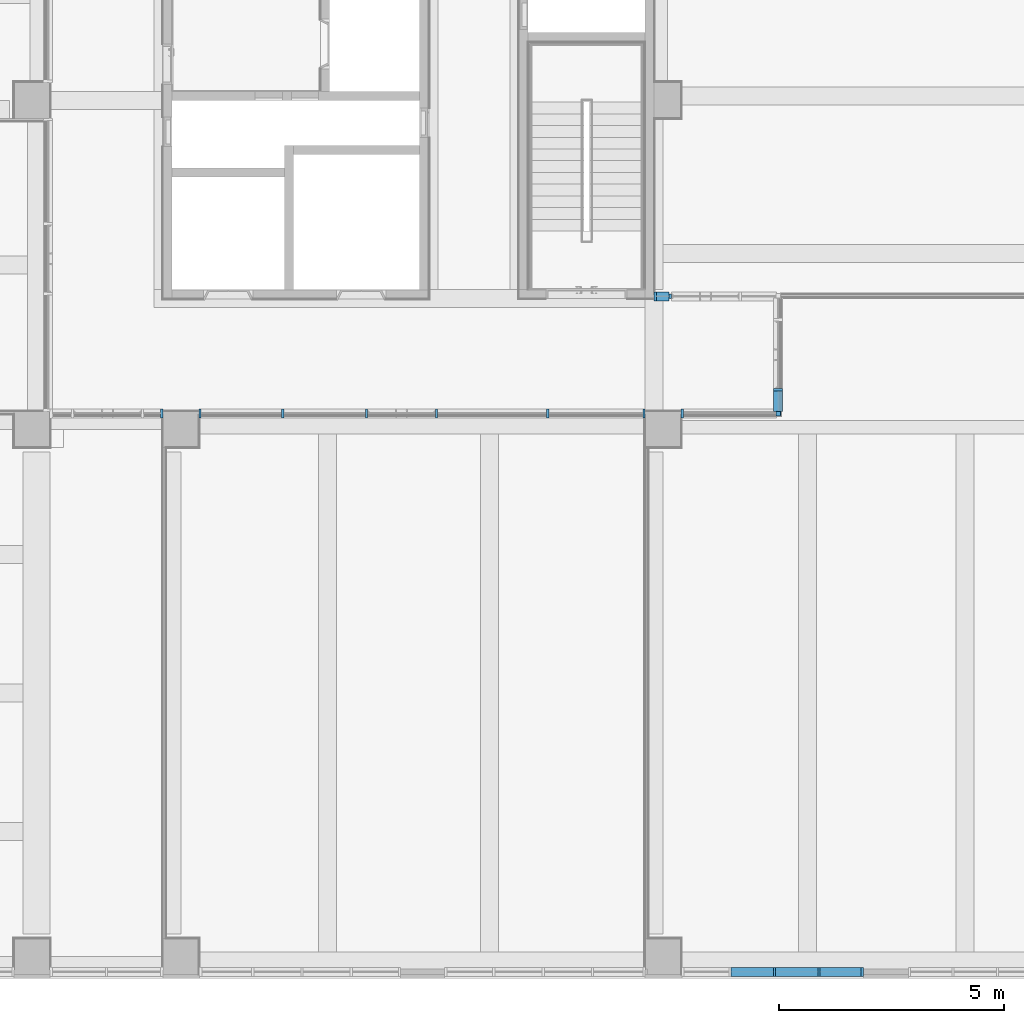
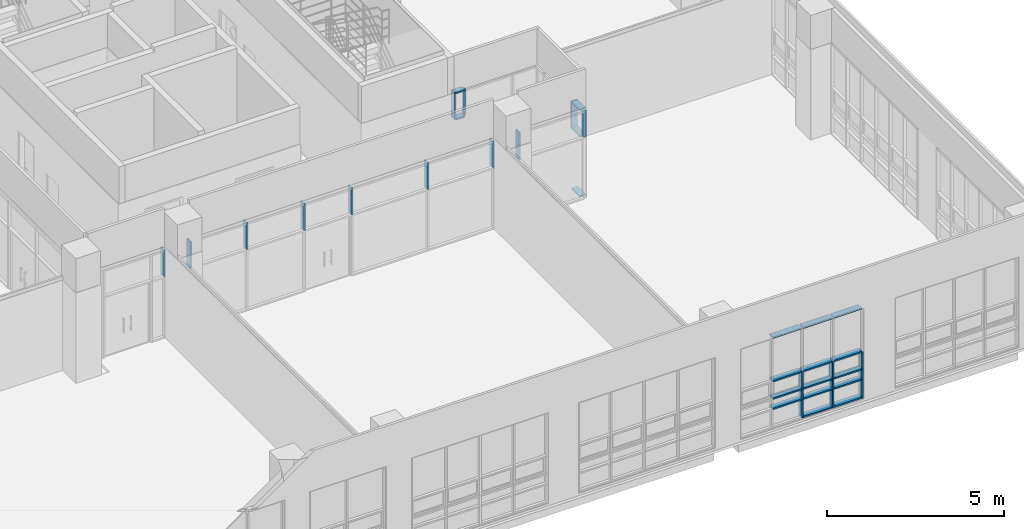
# One storey, part 17 of 74: 41 members, 6 elements without a shape of their own.
"""IFC2X3 building model written with IfcOpenShell, lengths in millimetres."""

from ifc_helpers import new_model, entity, si_unit, converted_unit, derived_unit, direction, frame, origin, origin_2d_with_axis, place, context, subcontext, project, spatial, rectangle, extrude, source, transform, mapped, material, type_object, type_shapes, element, aggregate, save


model = new_model("IFC2X3")

# Units and contexts
model_context = context("Model", 3, precision=0.01, world=origin(), true_north=direction((6.123031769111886e-17, 1.0)))
body_context = subcontext(model_context, "Body", "Model", "MODEL_VIEW")
ifc_project = project(units=[si_unit("LENGTHUNIT", "METRE", prefix="MILLI"), si_unit("AREAUNIT", "SQUARE_METRE"), si_unit("VOLUMEUNIT", "CUBIC_METRE"), converted_unit("PLANEANGLEUNIT", "DEGREE", entity("IfcRatioMeasure", 0.017453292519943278), si_unit("PLANEANGLEUNIT", "RADIAN"), dimensions=[0, 0, 0, 0, 0, 0, 0]), si_unit("MASSUNIT", "GRAM", prefix="KILO"), derived_unit("MASSDENSITYUNIT", [(si_unit("MASSUNIT", "GRAM", prefix="KILO"), 1), (si_unit("LENGTHUNIT", "METRE"), -3)]), derived_unit("MOMENTOFINERTIAUNIT", [(si_unit("LENGTHUNIT", "METRE"), 4)]), si_unit("TIMEUNIT", "SECOND"), si_unit("FREQUENCYUNIT", "HERTZ"), si_unit("THERMODYNAMICTEMPERATUREUNIT", "DEGREE_CELSIUS"), derived_unit("THERMALTRANSMITTANCEUNIT", [(si_unit("MASSUNIT", "GRAM", prefix="KILO"), 1), (si_unit("THERMODYNAMICTEMPERATUREUNIT", "KELVIN"), -1), (si_unit("TIMEUNIT", "SECOND"), -3)]), derived_unit("VOLUMETRICFLOWRATEUNIT", [(si_unit("LENGTHUNIT", "METRE"), 3), (si_unit("TIMEUNIT", "SECOND"), -1)]), derived_unit("MASSFLOWRATEUNIT", [(si_unit("MASSUNIT", "GRAM", prefix="KILO"), 1), (si_unit("TIMEUNIT", "SECOND"), -1)]), derived_unit("ROTATIONALFREQUENCYUNIT", [(si_unit("TIMEUNIT", "SECOND"), -1)]), si_unit("ELECTRICCURRENTUNIT", "AMPERE"), si_unit("ELECTRICVOLTAGEUNIT", "VOLT"), si_unit("POWERUNIT", "WATT"), si_unit("FORCEUNIT", "NEWTON", prefix="KILO"), si_unit("ILLUMINANCEUNIT", "LUX"), si_unit("LUMINOUSFLUXUNIT", "LUMEN"), si_unit("LUMINOUSINTENSITYUNIT", "CANDELA"), derived_unit("USERDEFINED", [(si_unit("MASSUNIT", "GRAM", prefix="KILO"), -1), (si_unit("LENGTHUNIT", "METRE"), -2), (si_unit("TIMEUNIT", "SECOND"), 3), (si_unit("LUMINOUSFLUXUNIT", "LUMEN"), 1)]), derived_unit("SOUNDPOWERUNIT", [(si_unit("MASSUNIT", "GRAM", prefix="KILO"), 1), (si_unit("LENGTHUNIT", "METRE"), 2), (si_unit("TIMEUNIT", "SECOND"), -3)]), derived_unit("SOUNDPRESSUREUNIT", [(si_unit("MASSUNIT", "GRAM", prefix="KILO"), 1), (si_unit("LENGTHUNIT", "METRE"), -1), (si_unit("TIMEUNIT", "SECOND"), -2)]), derived_unit("LINEARVELOCITYUNIT", [(si_unit("LENGTHUNIT", "METRE"), 1), (si_unit("TIMEUNIT", "SECOND"), -1)]), si_unit("PRESSUREUNIT", "PASCAL"), derived_unit("USERDEFINED", [(si_unit("LENGTHUNIT", "METRE"), -2), (si_unit("MASSUNIT", "GRAM", prefix="KILO"), 1), (si_unit("TIMEUNIT", "SECOND"), -2)]), derived_unit("LINEARFORCEUNIT", [(si_unit("MASSUNIT", "GRAM", prefix="KILO"), 1), (si_unit("LENGTHUNIT", "METRE"), 1), (si_unit("TIMEUNIT", "SECOND"), -2), (si_unit("LENGTHUNIT", "METRE"), -1)]), derived_unit("PLANARFORCEUNIT", [(si_unit("MASSUNIT", "GRAM", prefix="KILO"), 1), (si_unit("LENGTHUNIT", "METRE"), 1), (si_unit("TIMEUNIT", "SECOND"), -2), (si_unit("LENGTHUNIT", "METRE"), -2)])], contexts=[model_context])

# Site, building, storey
site_placement = place(None, frame((-14167.972527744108, -657.2125860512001, 0.0)))
site = spatial("IfcSite", under=ifc_project, at=site_placement, Name="Default", CompositionType="ELEMENT")
building_placement = place(site_placement, origin())
building = spatial("IfcBuilding", under=site, at=building_placement, Name="Sample Building", CompositionType="ELEMENT")
storey_placement = place(building_placement, frame((0.0, 0.0, 4800.0)))
storey = spatial("IfcBuildingStorey", under=building, at=storey_placement, Name="지상 2층", CompositionType="ELEMENT", Elevation=4800.000000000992)

# Curtain wall, members
curtain_wall_type = type_object("IfcCurtainWallType", Name="커튼월:CW112-스테인리스 스틸 커튼월", PredefinedType="NOTDEFINED")
curtain_wall_1_placement = place(storey_placement, frame((0.0, 0.0, -4800.0)))
curtain_wall_1 = element("IfcCurtainWall", 1, at=curtain_wall_1_placement, inside=storey, type_object=curtain_wall_type, Name="커튼월:CW112-스테인리스 스틸 커튼월", ObjectType="커튼월:CW112-스테인리스 스틸 커튼월")
ifc_material = material(Name="<Unnamed>")
member_type_1 = type_object("IfcMemberType", Name="직사각형 멀리언:CW200-직사각형 멀리언 50x200mm", PredefinedType="MULLION", material=ifc_material)
shared_shape_1 = source(origin(), body_context, "Body", "SweptSolid", [
    extrude(rectangle(XDim=200.0, YDim=50.0, at=origin_2d_with_axis()), frame((-25.0, 0.0, -650.0), z_axis=(0.0, 0.0, 1.0), x_axis=(0.0, -1.0, 0.0)), (0.0, 0.0, 1.0), 650.0000000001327),
])
type_shapes(member_type_1, [shared_shape_1])
member_1_placement = place(curtain_wall_1_placement, frame((45612.07127232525, 619.712295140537, 4880.0), z_axis=(0.0, 0.0, -1.0), x_axis=(1.0, 0.0, 0.0)))
member_1 = element("IfcMember", 2, at=member_1_placement, type_object=member_type_1, material=ifc_material, Name="직사각형 멀리언:CW200-직사각형 멀리언 50x200mm", ObjectType="직사각형 멀리언:CW200-직사각형 멀리언 50x200mm", context=body_context, shape_type="MappedRepresentation", body=[
    mapped(shared_shape_1, transform((0.0, 0.0, 0.0), scale=1.0)),
])
member_type_2 = type_object("IfcMemberType", Name="직사각형 멀리언:CW200-직사각형 멀리언 50x200mm", PredefinedType="MULLION", material=ifc_material)
shared_shape_2 = source(origin(), body_context, "Body", "SweptSolid", [
    extrude(rectangle(XDim=200.0, YDim=50.0, at=origin_2d_with_axis()), frame((0.0, 0.0, -650.0), z_axis=(0.0, 0.0, 1.0), x_axis=(0.0, -1.0, 0.0)), (0.0, 0.0, 1.0), 650.0000000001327),
])
type_shapes(member_type_2, [shared_shape_2])
member_2_placement = place(curtain_wall_1_placement, frame((43637.07127232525, 619.7122951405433, 4880.0), z_axis=(0.0, 0.0, -1.0), x_axis=(1.0, 0.0, 0.0)))
member_2 = element("IfcMember", 3, at=member_2_placement, type_object=member_type_2, material=ifc_material, Name="직사각형 멀리언:CW200-직사각형 멀리언 50x200mm", ObjectType="직사각형 멀리언:CW200-직사각형 멀리언 50x200mm", context=body_context, shape_type="MappedRepresentation", body=[
    mapped(shared_shape_2, transform((0.0, 0.0, 0.0), scale=1.0)),
])
member_3_placement = place(curtain_wall_1_placement, frame((44624.57127232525, 619.7122951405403, 4880.0), z_axis=(0.0, 0.0, -1.0), x_axis=(1.0, 0.0, 0.0)))
member_3 = element("IfcMember", 4, at=member_3_placement, type_object=member_type_2, material=ifc_material, Name="직사각형 멀리언:CW200-직사각형 멀리언 50x200mm", ObjectType="직사각형 멀리언:CW200-직사각형 멀리언 50x200mm", context=body_context, shape_type="MappedRepresentation", body=[
    mapped(shared_shape_2, transform((0.0, 0.0, 0.0), scale=1.0)),
])
member_type_3 = type_object("IfcMemberType", Name="직사각형 멀리언:CW200-직사각형 멀리언 50x200mm", PredefinedType="MULLION", material=ifc_material)
shared_shape_3 = source(origin(), body_context, "Body", "SweptSolid", [
    extrude(rectangle(XDim=200.0, YDim=50.0, at=origin_2d_with_axis()), frame((-25.0, 0.0, -600.0), z_axis=(0.0, 0.0, 1.0), x_axis=(0.0, -1.0, 0.0)), (0.0, 0.0, 1.0), 600.0),
])
type_shapes(member_type_3, [shared_shape_3])
member_4_placement = place(curtain_wall_1_placement, frame((45612.07127232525, 619.712295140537, 5880.0), z_axis=(0.0, 0.0, -1.0), x_axis=(1.0, 0.0, 0.0)))
member_4 = element("IfcMember", 5, at=member_4_placement, type_object=member_type_3, material=ifc_material, Name="직사각형 멀리언:CW200-직사각형 멀리언 50x200mm", ObjectType="직사각형 멀리언:CW200-직사각형 멀리언 50x200mm", context=body_context, shape_type="MappedRepresentation", body=[
    mapped(shared_shape_3, transform((0.0, 0.0, 0.0), scale=1.0)),
])
member_type_4 = type_object("IfcMemberType", Name="직사각형 멀리언:CW200-직사각형 멀리언 50x200mm", PredefinedType="MULLION", material=ifc_material)
shared_shape_4 = source(origin(), body_context, "Body", "SweptSolid", [
    extrude(rectangle(XDim=200.0, YDim=50.0, at=origin_2d_with_axis()), frame((0.0, 0.0, -600.0), z_axis=(0.0, 0.0, 1.0), x_axis=(0.0, -1.0, 0.0)), (0.0, 0.0, 1.0), 600.0),
])
type_shapes(member_type_4, [shared_shape_4])
member_5_placement = place(curtain_wall_1_placement, frame((43637.07127232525, 619.7122951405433, 5880.0), z_axis=(0.0, 0.0, -1.0), x_axis=(1.0, 0.0, 0.0)))
member_5 = element("IfcMember", 6, at=member_5_placement, type_object=member_type_4, material=ifc_material, Name="직사각형 멀리언:CW200-직사각형 멀리언 50x200mm", ObjectType="직사각형 멀리언:CW200-직사각형 멀리언 50x200mm", context=body_context, shape_type="MappedRepresentation", body=[
    mapped(shared_shape_4, transform((0.0, 0.0, 0.0), scale=1.0)),
])
member_6_placement = place(curtain_wall_1_placement, frame((44624.57127232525, 619.7122951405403, 5880.0), z_axis=(0.0, 0.0, -1.0), x_axis=(1.0, 0.0, 0.0)))
member_6 = element("IfcMember", 7, at=member_6_placement, type_object=member_type_4, material=ifc_material, Name="직사각형 멀리언:CW200-직사각형 멀리언 50x200mm", ObjectType="직사각형 멀리언:CW200-직사각형 멀리언 50x200mm", context=body_context, shape_type="MappedRepresentation", body=[
    mapped(shared_shape_4, transform((0.0, 0.0, 0.0), scale=1.0)),
])
member_type_5 = type_object("IfcMemberType", Name="직사각형 멀리언:CW200-직사각형 멀리언 50x200mm", PredefinedType="MULLION", material=ifc_material)
shared_shape_5 = source(origin(), body_context, "Body", "SweptSolid", [
    extrude(rectangle(XDim=200.0, YDim=50.0, at=origin_2d_with_axis()), frame((-25.0, 0.0, -350.0), z_axis=(0.0, 0.0, 1.0), x_axis=(0.0, -1.0, 0.0)), (0.0, 0.0, 1.0), 349.9999999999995),
])
type_shapes(member_type_5, [shared_shape_5])
member_7_placement = place(curtain_wall_1_placement, frame((45612.07127232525, 619.712295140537, 5530.0), z_axis=(0.0, 0.0, -1.0), x_axis=(1.0, 0.0, 0.0)))
member_7 = element("IfcMember", 8, at=member_7_placement, type_object=member_type_5, material=ifc_material, Name="직사각형 멀리언:CW200-직사각형 멀리언 50x200mm", ObjectType="직사각형 멀리언:CW200-직사각형 멀리언 50x200mm", context=body_context, shape_type="MappedRepresentation", body=[
    mapped(shared_shape_5, transform((0.0, 0.0, 0.0), scale=1.0)),
])
member_type_6 = type_object("IfcMemberType", Name="직사각형 멀리언:CW200-직사각형 멀리언 50x200mm", PredefinedType="MULLION", material=ifc_material)
shared_shape_6 = source(origin(), body_context, "Body", "SweptSolid", [
    extrude(rectangle(XDim=200.0, YDim=50.0, at=origin_2d_with_axis()), frame((0.0, 0.0, -350.0), z_axis=(0.0, 0.0, 1.0), x_axis=(0.0, -1.0, 0.0)), (0.0, 0.0, 1.0), 349.9999999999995),
])
type_shapes(member_type_6, [shared_shape_6])
member_8_placement = place(curtain_wall_1_placement, frame((43637.07127232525, 619.7122951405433, 5530.0), z_axis=(0.0, 0.0, -1.0), x_axis=(1.0, 0.0, 0.0)))
member_8 = element("IfcMember", 9, at=member_8_placement, type_object=member_type_6, material=ifc_material, Name="직사각형 멀리언:CW200-직사각형 멀리언 50x200mm", ObjectType="직사각형 멀리언:CW200-직사각형 멀리언 50x200mm", context=body_context, shape_type="MappedRepresentation", body=[
    mapped(shared_shape_6, transform((0.0, 0.0, 0.0), scale=1.0)),
])
member_9_placement = place(curtain_wall_1_placement, frame((44624.57127232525, 619.7122951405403, 5530.0), z_axis=(0.0, 0.0, -1.0), x_axis=(1.0, 0.0, 0.0)))
member_9 = element("IfcMember", 10, at=member_9_placement, type_object=member_type_6, material=ifc_material, Name="직사각형 멀리언:CW200-직사각형 멀리언 50x200mm", ObjectType="직사각형 멀리언:CW200-직사각형 멀리언 50x200mm", context=body_context, shape_type="MappedRepresentation", body=[
    mapped(shared_shape_6, transform((0.0, 0.0, 0.0), scale=1.0)),
])
member_type_7 = type_object("IfcMemberType", Name="직사각형 멀리언:CW200-직사각형 멀리언 50x200mm", PredefinedType="MULLION", material=ifc_material)
shared_shape_7 = source(origin(), body_context, "Body", "SweptSolid", [
    extrude(rectangle(XDim=200.0, YDim=50.0, at=origin_2d_with_axis()), frame((-25.0, 0.0, -912.5000000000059), z_axis=(0.0, 0.0, 1.0), x_axis=(0.0, -1.0, 0.0)), (0.0, 0.0, 1.0), 912.5000000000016),
])
type_shapes(member_type_7, [shared_shape_7])
member_10_placement = place(curtain_wall_1_placement, frame((45562.07127232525, 619.7122951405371, 8000.0), z_axis=(1.0, 0.0, 0.0), x_axis=(0.0, 0.0, 1.0)))
member_10 = element("IfcMember", 11, at=member_10_placement, type_object=member_type_7, material=ifc_material, Name="직사각형 멀리언:CW200-직사각형 멀리언 50x200mm", ObjectType="직사각형 멀리언:CW200-직사각형 멀리언 50x200mm", context=body_context, shape_type="MappedRepresentation", body=[
    mapped(shared_shape_7, transform((0.0, 0.0, 0.0), scale=1.0)),
])
member_type_8 = type_object("IfcMemberType", Name="직사각형 멀리언:CW200-직사각형 멀리언 50x200mm", PredefinedType="MULLION", material=ifc_material)
shared_shape_8 = source(origin(), body_context, "Body", "SweptSolid", [
    extrude(rectangle(XDim=200.0, YDim=50.0, at=origin_2d_with_axis()), frame((-25.0, 0.0, -937.4999999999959), z_axis=(0.0, 0.0, 1.0), x_axis=(0.0, -1.0, 0.0)), (0.0, 0.0, 1.0), 937.5000000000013),
])
type_shapes(member_type_8, [shared_shape_8])
member_11_placement = place(curtain_wall_1_placement, frame((43662.07127232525, 619.7122951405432, 4880.0), z_axis=(-1.0, 0.0, 0.0), x_axis=(0.0, 0.0, -1.0)))
member_11 = element("IfcMember", 12, at=member_11_placement, type_object=member_type_8, material=ifc_material, Name="직사각형 멀리언:CW200-직사각형 멀리언 50x200mm", ObjectType="직사각형 멀리언:CW200-직사각형 멀리언 50x200mm", context=body_context, shape_type="MappedRepresentation", body=[
    mapped(shared_shape_8, transform((0.0, 0.0, 0.0), scale=1.0)),
])
member_type_9 = type_object("IfcMemberType", Name="직사각형 멀리언:CW200-직사각형 멀리언 50x200mm", PredefinedType="MULLION", material=ifc_material)
shared_shape_9 = source(origin(), body_context, "Body", "SweptSolid", [
    extrude(rectangle(XDim=200.0, YDim=50.0, at=origin_2d_with_axis()), frame((0.0, 0.0, -937.5000000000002), z_axis=(0.0, 0.0, 1.0), x_axis=(0.0, -1.0, 0.0)), (0.0, 0.0, 1.0), 937.5000000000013),
])
type_shapes(member_type_9, [shared_shape_9])
member_12_placement = place(curtain_wall_1_placement, frame((43612.07127232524, 619.7122951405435, 6480.0), z_axis=(1.0, 0.0, 0.0), x_axis=(0.0, 0.0, 1.0)))
member_12 = element("IfcMember", 13, at=member_12_placement, type_object=member_type_9, material=ifc_material, Name="직사각형 멀리언:CW200-직사각형 멀리언 50x200mm", ObjectType="직사각형 멀리언:CW200-직사각형 멀리언 50x200mm", context=body_context, shape_type="MappedRepresentation", body=[
    mapped(shared_shape_9, transform((0.0, 0.0, 0.0), scale=1.0)),
])
member_13_placement = place(curtain_wall_1_placement, frame((43612.07127232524, 619.7122951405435, 5880.0), z_axis=(1.0, 0.0, 0.0), x_axis=(0.0, 0.0, 1.0)))
member_13 = element("IfcMember", 14, at=member_13_placement, type_object=member_type_9, material=ifc_material, Name="직사각형 멀리언:CW200-직사각형 멀리언 50x200mm", ObjectType="직사각형 멀리언:CW200-직사각형 멀리언 50x200mm", context=body_context, shape_type="MappedRepresentation", body=[
    mapped(shared_shape_9, transform((0.0, 0.0, 0.0), scale=1.0)),
])
member_14_placement = place(curtain_wall_1_placement, frame((44599.57127232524, 619.7122951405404, 5880.0), z_axis=(1.0, 0.0, 0.0), x_axis=(0.0, 0.0, 1.0)))
member_14 = element("IfcMember", 15, at=member_14_placement, type_object=member_type_9, material=ifc_material, Name="직사각형 멀리언:CW200-직사각형 멀리언 50x200mm", ObjectType="직사각형 멀리언:CW200-직사각형 멀리언 50x200mm", context=body_context, shape_type="MappedRepresentation", body=[
    mapped(shared_shape_9, transform((0.0, 0.0, 0.0), scale=1.0)),
])
member_15_placement = place(curtain_wall_1_placement, frame((44599.57127232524, 619.7122951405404, 6480.0), z_axis=(1.0, 0.0, 0.0), x_axis=(0.0, 0.0, 1.0)))
member_15 = element("IfcMember", 16, at=member_15_placement, type_object=member_type_9, material=ifc_material, Name="직사각형 멀리언:CW200-직사각형 멀리언 50x200mm", ObjectType="직사각형 멀리언:CW200-직사각형 멀리언 50x200mm", context=body_context, shape_type="MappedRepresentation", body=[
    mapped(shared_shape_9, transform((0.0, 0.0, 0.0), scale=1.0)),
])
member_16_placement = place(curtain_wall_1_placement, frame((43612.07127232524, 619.7122951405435, 5530.0), z_axis=(1.0, 0.0, 0.0), x_axis=(0.0, 0.0, 1.0)))
member_16 = element("IfcMember", 17, at=member_16_placement, type_object=member_type_9, material=ifc_material, Name="직사각형 멀리언:CW200-직사각형 멀리언 50x200mm", ObjectType="직사각형 멀리언:CW200-직사각형 멀리언 50x200mm", context=body_context, shape_type="MappedRepresentation", body=[
    mapped(shared_shape_9, transform((0.0, 0.0, 0.0), scale=1.0)),
])
member_17_placement = place(curtain_wall_1_placement, frame((44599.57127232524, 619.7122951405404, 5530.0), z_axis=(1.0, 0.0, 0.0), x_axis=(0.0, 0.0, 1.0)))
member_17 = element("IfcMember", 18, at=member_17_placement, type_object=member_type_9, material=ifc_material, Name="직사각형 멀리언:CW200-직사각형 멀리언 50x200mm", ObjectType="직사각형 멀리언:CW200-직사각형 멀리언 50x200mm", context=body_context, shape_type="MappedRepresentation", body=[
    mapped(shared_shape_9, transform((0.0, 0.0, 0.0), scale=1.0)),
])
member_type_10 = type_object("IfcMemberType", Name="직사각형 멀리언:CW200-직사각형 멀리언 50x200mm", PredefinedType="MULLION", material=ifc_material)
shared_shape_10 = source(origin(), body_context, "Body", "SweptSolid", [
    extrude(rectangle(XDim=200.0, YDim=50.0, at=origin_2d_with_axis()), frame((-25.0, 0.0, -937.4999999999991), z_axis=(0.0, 0.0, 1.0), x_axis=(0.0, -1.0, 0.0)), (0.0, 0.0, 1.0), 937.5000000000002),
])
type_shapes(member_type_10, [shared_shape_10])
member_18_placement = place(curtain_wall_1_placement, frame((43612.07127232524, 619.7122951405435, 8000.0), z_axis=(1.0, 0.0, 0.0), x_axis=(0.0, 0.0, 1.0)))
member_18 = element("IfcMember", 19, at=member_18_placement, type_object=member_type_10, material=ifc_material, Name="직사각형 멀리언:CW200-직사각형 멀리언 50x200mm", ObjectType="직사각형 멀리언:CW200-직사각형 멀리언 50x200mm", context=body_context, shape_type="MappedRepresentation", body=[
    mapped(shared_shape_10, transform((0.0, 0.0, 0.0), scale=1.0)),
])
member_19_placement = place(curtain_wall_1_placement, frame((44599.57127232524, 619.7122951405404, 8000.0), z_axis=(1.0, 0.0, 0.0), x_axis=(0.0, 0.0, 1.0)))
member_19 = element("IfcMember", 20, at=member_19_placement, type_object=member_type_10, material=ifc_material, Name="직사각형 멀리언:CW200-직사각형 멀리언 50x200mm", ObjectType="직사각형 멀리언:CW200-직사각형 멀리언 50x200mm", context=body_context, shape_type="MappedRepresentation", body=[
    mapped(shared_shape_10, transform((0.0, 0.0, 0.0), scale=1.0)),
])
member_type_11 = type_object("IfcMemberType", Name="직사각형 멀리언:CW200-직사각형 멀리언 50x200mm", PredefinedType="MULLION", material=ifc_material)
shared_shape_11 = source(origin(), body_context, "Body", "SweptSolid", [
    extrude(rectangle(XDim=200.0, YDim=50.0, at=origin_2d_with_axis()), frame((-25.0, 0.0, -912.5000000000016), z_axis=(0.0, 0.0, 1.0), x_axis=(0.0, -1.0, 0.0)), (0.0, 0.0, 1.0), 912.5000000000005),
])
type_shapes(member_type_11, [shared_shape_11])
member_20_placement = place(curtain_wall_1_placement, frame((44649.57127232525, 619.71229514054, 4880.0), z_axis=(-1.0, 0.0, 0.0), x_axis=(0.0, 0.0, -1.0)))
member_20 = element("IfcMember", 21, at=member_20_placement, type_object=member_type_11, material=ifc_material, Name="직사각형 멀리언:CW200-직사각형 멀리언 50x200mm", ObjectType="직사각형 멀리언:CW200-직사각형 멀리언 50x200mm", context=body_context, shape_type="MappedRepresentation", body=[
    mapped(shared_shape_11, transform((0.0, 0.0, 0.0), scale=1.0)),
])
member_type_12 = type_object("IfcMemberType", Name="직사각형 멀리언:CW200-직사각형 멀리언 50x200mm", PredefinedType="MULLION", material=ifc_material)
shared_shape_12 = source(origin(), body_context, "Body", "SweptSolid", [
    extrude(rectangle(XDim=200.0, YDim=50.0, at=origin_2d_with_axis()), frame((0.0, 0.0, -912.4999999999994), z_axis=(0.0, 0.0, 1.0), x_axis=(0.0, -1.0, 0.0)), (0.0, 0.0, 1.0), 912.5000000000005),
])
type_shapes(member_type_12, [shared_shape_12])
member_21_placement = place(curtain_wall_1_placement, frame((45562.07127232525, 619.7122951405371, 5880.0), z_axis=(1.0, 0.0, 0.0), x_axis=(0.0, 0.0, 1.0)))
member_21 = element("IfcMember", 22, at=member_21_placement, type_object=member_type_12, material=ifc_material, Name="직사각형 멀리언:CW200-직사각형 멀리언 50x200mm", ObjectType="직사각형 멀리언:CW200-직사각형 멀리언 50x200mm", context=body_context, shape_type="MappedRepresentation", body=[
    mapped(shared_shape_12, transform((0.0, 0.0, 0.0), scale=1.0)),
])
member_22_placement = place(curtain_wall_1_placement, frame((45562.07127232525, 619.7122951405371, 6480.0), z_axis=(1.0, 0.0, 0.0), x_axis=(0.0, 0.0, 1.0)))
member_22 = element("IfcMember", 23, at=member_22_placement, type_object=member_type_12, material=ifc_material, Name="직사각형 멀리언:CW200-직사각형 멀리언 50x200mm", ObjectType="직사각형 멀리언:CW200-직사각형 멀리언 50x200mm", context=body_context, shape_type="MappedRepresentation", body=[
    mapped(shared_shape_12, transform((0.0, 0.0, 0.0), scale=1.0)),
])
member_23_placement = place(curtain_wall_1_placement, frame((45562.07127232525, 619.7122951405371, 5530.0), z_axis=(1.0, 0.0, 0.0), x_axis=(0.0, 0.0, 1.0)))
member_23 = element("IfcMember", 24, at=member_23_placement, type_object=member_type_12, material=ifc_material, Name="직사각형 멀리언:CW200-직사각형 멀리언 50x200mm", ObjectType="직사각형 멀리언:CW200-직사각형 멀리언 50x200mm", context=body_context, shape_type="MappedRepresentation", body=[
    mapped(shared_shape_12, transform((0.0, 0.0, 0.0), scale=1.0)),
])
aggregate(curtain_wall_1, [member_10, member_1, member_12, member_4, member_13, member_18, member_11, member_14, member_15, member_2, member_5, member_19, member_20, member_21, member_22, member_3, member_6, member_7, member_16, member_17, member_23, member_8, member_9])

# Curtain wall, member
curtain_wall_2_placement = place(storey_placement, frame((0.0, 0.0, -4800.0)))
curtain_wall_2 = element("IfcCurtainWall", 25, at=curtain_wall_2_placement, inside=storey, type_object=curtain_wall_type, Name="커튼월:CW112-스테인리스 스틸 커튼월", ObjectType="커튼월:CW112-스테인리스 스틸 커튼월")
member_type_13 = type_object("IfcMemberType", Name="직사각형 멀리언:CW200-직사각형 멀리언 50x200mm", PredefinedType="MULLION", material=ifc_material)
shared_shape_13 = source(origin(), body_context, "Body", "SweptSolid", [
    extrude(rectangle(XDim=200.0, YDim=50.0, at=origin_2d_with_axis()), frame((-25.0, 0.0, -920.0), z_axis=(0.0, 0.0, 1.0), x_axis=(0.0, -1.0, 0.0)), (0.0, 0.0, 1.0), 920.0000000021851),
])
type_shapes(member_type_13, [shared_shape_13])
member_24_placement = place(curtain_wall_2_placement, frame((30867.97249113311, 13012.212307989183, 7900.0), z_axis=(0.0, 0.0, 1.0), x_axis=(-1.0, 0.0, 0.0)))
member_24 = element("IfcMember", 26, at=member_24_placement, type_object=member_type_13, material=ifc_material, Name="직사각형 멀리언:CW200-직사각형 멀리언 50x200mm", ObjectType="직사각형 멀리언:CW200-직사각형 멀리언 50x200mm", context=body_context, shape_type="MappedRepresentation", body=[
    mapped(shared_shape_13, transform((0.0, 0.0, 0.0), scale=1.0)),
])

curtain_wall_3_placement = place(storey_placement, frame((0.0, 0.0, -4800.0)))
curtain_wall_3 = element("IfcCurtainWall", 27, at=curtain_wall_3_placement, inside=storey, type_object=curtain_wall_type, Name="커튼월:CW112-스테인리스 스틸 커튼월", ObjectType="커튼월:CW112-스테인리스 스틸 커튼월")
member_25_placement = place(curtain_wall_3_placement, frame((41567.97249113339, 13012.19487839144, 7900.0), z_axis=(0.0, 0.0, 1.0), x_axis=(-1.0, 0.0, 0.0)))
member_25 = element("IfcMember", 28, at=member_25_placement, type_object=member_type_13, material=ifc_material, Name="직사각형 멀리언:CW200-직사각형 멀리언 50x200mm", ObjectType="직사각형 멀리언:CW200-직사각형 멀리언 50x200mm", context=body_context, shape_type="MappedRepresentation", body=[
    mapped(shared_shape_13, transform((0.0, 0.0, 0.0), scale=1.0)),
])

# Member
member_type_14 = type_object("IfcMemberType", Name="직사각형 멀리언:CW200-직사각형 멀리언 50x200mm", PredefinedType="MULLION", material=ifc_material)
shared_shape_14 = source(origin(), body_context, "Body", "SweptSolid", [
    extrude(rectangle(XDim=200.0, YDim=50.0, at=origin_2d_with_axis()), frame((-25.0, 0.0, -920.0), z_axis=(0.0, 0.0, 1.0), x_axis=(0.0, -1.0, 0.0)), (0.0, 0.0, 1.0), 920.0000000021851),
])
type_shapes(member_type_14, [shared_shape_14])
member_26_placement = place(curtain_wall_2_placement, frame((40767.9724911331, 13012.212307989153, 6980.0), z_axis=(0.0, 0.0, -1.0), x_axis=(1.0, 0.0, 0.0)))
member_26 = element("IfcMember", 29, at=member_26_placement, type_object=member_type_14, material=ifc_material, Name="직사각형 멀리언:CW200-직사각형 멀리언 50x200mm", ObjectType="직사각형 멀리언:CW200-직사각형 멀리언 50x200mm", context=body_context, shape_type="MappedRepresentation", body=[
    mapped(shared_shape_14, transform((0.0, 0.0, 0.0), scale=1.0)),
])

member_type_15 = type_object("IfcMemberType", Name="직사각형 멀리언:CW200-직사각형 멀리언 50x200mm", PredefinedType="MULLION", material=ifc_material)
shared_shape_15 = source(origin(), body_context, "Body", "SweptSolid", [
    extrude(rectangle(XDim=200.0, YDim=50.0, at=origin_2d_with_axis()), frame((0.0, 0.0, -920.0), z_axis=(0.0, 0.0, 1.0), x_axis=(0.0, -1.0, 0.0)), (0.0, 0.0, 1.0), 920.0000000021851),
])
type_shapes(member_type_15, [shared_shape_15])
member_27_placement = place(curtain_wall_2_placement, frame((32727.97249113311, 13012.212307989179, 6980.0), z_axis=(0.0, 0.0, -1.0), x_axis=(1.0, 0.0, 0.0)))
member_27 = element("IfcMember", 30, at=member_27_placement, type_object=member_type_15, material=ifc_material, Name="직사각형 멀리언:CW200-직사각형 멀리언 50x200mm", ObjectType="직사각형 멀리언:CW200-직사각형 멀리언 50x200mm", context=body_context, shape_type="MappedRepresentation", body=[
    mapped(shared_shape_15, transform((0.0, 0.0, 0.0), scale=1.0)),
])

member_28_placement = place(curtain_wall_2_placement, frame((34587.972491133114, 13012.212307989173, 6980.0), z_axis=(0.0, 0.0, -1.0), x_axis=(1.0, 0.0, 0.0)))
member_28 = element("IfcMember", 31, at=member_28_placement, type_object=member_type_15, material=ifc_material, Name="직사각형 멀리언:CW200-직사각형 멀리언 50x200mm", ObjectType="직사각형 멀리언:CW200-직사각형 멀리언 50x200mm", context=body_context, shape_type="MappedRepresentation", body=[
    mapped(shared_shape_15, transform((0.0, 0.0, 0.0), scale=1.0)),
])

member_29_placement = place(curtain_wall_2_placement, frame((36137.97249113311, 13012.212307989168, 6980.0), z_axis=(0.0, 0.0, -1.0), x_axis=(1.0, 0.0, 0.0)))
member_29 = element("IfcMember", 32, at=member_29_placement, type_object=member_type_15, material=ifc_material, Name="직사각형 멀리언:CW200-직사각형 멀리언 50x200mm", ObjectType="직사각형 멀리언:CW200-직사각형 멀리언 50x200mm", context=body_context, shape_type="MappedRepresentation", body=[
    mapped(shared_shape_15, transform((0.0, 0.0, 0.0), scale=1.0)),
])

member_30_placement = place(curtain_wall_2_placement, frame((38607.972491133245, 13012.212307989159, 6980.0), z_axis=(0.0, 0.0, -1.0), x_axis=(1.0, 0.0, 0.0)))
member_30 = element("IfcMember", 33, at=member_30_placement, type_object=member_type_15, material=ifc_material, Name="직사각형 멀리언:CW200-직사각형 멀리언 50x200mm", ObjectType="직사각형 멀리언:CW200-직사각형 멀리언 50x200mm", context=body_context, shape_type="MappedRepresentation", body=[
    mapped(shared_shape_15, transform((0.0, 0.0, 0.0), scale=1.0)),
])

aggregate(curtain_wall_2, [member_24, member_26, member_27, member_28, member_29, member_30])

# Curtain wall, member
curtain_wall_4_placement = place(storey_placement, frame((0.0, 0.0, -4800.0)))
curtain_wall_4 = element("IfcCurtainWall", 34, at=curtain_wall_4_placement, inside=storey, type_object=curtain_wall_type, Name="커튼월:CW112-스테인리스 스틸 커튼월", ObjectType="커튼월:CW112-스테인리스 스틸 커튼월")
member_31_placement = place(curtain_wall_4_placement, frame((43717.972491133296, 13537.177678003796, 6980.0), z_axis=(0.0, 0.0, -1.0), x_axis=(0.0, 1.0, 0.0)))
member_31 = element("IfcMember", 35, at=member_31_placement, type_object=member_type_15, material=ifc_material, Name="직사각형 멀리언:CW200-직사각형 멀리언 50x200mm", ObjectType="직사각형 멀리언:CW200-직사각형 멀리언 50x200mm", context=body_context, shape_type="MappedRepresentation", body=[
    mapped(shared_shape_15, transform((0.0, 0.0, 0.0), scale=1.0)),
])

curtain_wall_5_placement = place(storey_placement, frame((0.0, 0.0, -4800.0)))
curtain_wall_5 = element("IfcCurtainWall", 36, at=curtain_wall_5_placement, inside=storey, type_object=curtain_wall_type, Name="커튼월:CW112-스테인리스 스틸 커튼월", ObjectType="커튼월:CW112-스테인리스 스틸 커튼월")
member_type_16 = type_object("IfcMemberType", Name="직사각형 멀리언:CW200-직사각형 멀리언 50x200mm", PredefinedType="MULLION", material=ifc_material)
shared_shape_16 = source(origin(), body_context, "Body", "SweptSolid", [
    extrude(rectangle(XDim=200.0, YDim=50.0, at=origin_2d_with_axis()), frame((-25.0, 0.0, -920.0), z_axis=(0.0, 0.0, 1.0), x_axis=(0.0, -1.0, 0.0)), (0.0, 0.0, 1.0), 920.0000000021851),
])
type_shapes(member_type_16, [shared_shape_16])
member_32_placement = place(curtain_wall_5_placement, frame((30067.95511434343, 13012.212307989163, 7900.0)))
member_32 = element("IfcMember", 37, at=member_32_placement, type_object=member_type_16, material=ifc_material, Name="직사각형 멀리언:CW200-직사각형 멀리언 50x200mm", ObjectType="직사각형 멀리언:CW200-직사각형 멀리언 50x200mm", context=body_context, shape_type="MappedRepresentation", body=[
    mapped(shared_shape_16, transform((0.0, 0.0, 0.0), scale=1.0)),
])
aggregate(curtain_wall_5, [member_32])

# Member
member_type_17 = type_object("IfcMemberType", Name="직사각형 멀리언:CW200-직사각형 멀리언 100 x 100mm", PredefinedType="MULLION", material=ifc_material)
shared_shape_17 = source(origin(), body_context, "Body", "SweptSolid", [
    extrude(rectangle(XDim=100.00000000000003, YDim=100.0, at=origin_2d_with_axis()), frame((-50.0, 0.0, -920.0), z_axis=(0.0, 0.0, 1.0), x_axis=(0.0, -1.0, 0.0)), (0.0, 0.0, 1.0), 920.0000000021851),
])
type_shapes(member_type_17, [shared_shape_17])
member_33_placement = place(curtain_wall_3_placement, frame((43785.97249113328, 13012.194878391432, 6980.0), z_axis=(0.0, 0.0, -1.0), x_axis=(1.0, 0.0, 0.0)))
member_33 = element("IfcMember", 38, at=member_33_placement, type_object=member_type_17, material=ifc_material, Name="직사각형 멀리언:CW200-직사각형 멀리언 100 x 100mm", ObjectType="직사각형 멀리언:CW200-직사각형 멀리언 100 x 100mm", context=body_context, shape_type="MappedRepresentation", body=[
    mapped(shared_shape_17, transform((0.0, 0.0, 0.0), scale=1.0)),
])

aggregate(curtain_wall_3, [member_25, member_33])

member_type_18 = type_object("IfcMemberType", Name="직사각형 멀리언:CW200-직사각형 멀리언 50x200mm", PredefinedType="MULLION", material=ifc_material)
shared_shape_18 = source(origin(), body_context, "Body", "SweptSolid", [
    extrude(rectangle(XDim=200.0, YDim=50.0, at=origin_2d_with_axis()), frame((-25.0, 0.0, -462.98279961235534), z_axis=(0.0, 0.0, 1.0), x_axis=(0.0, -1.0, 0.0)), (0.0, 0.0, 1.0), 462.9827996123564),
])
type_shapes(member_type_18, [shared_shape_18])
member_34_placement = place(curtain_wall_4_placement, frame((43717.972491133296, 13049.194878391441, 4880.0), z_axis=(0.0, -1.0, 0.0), x_axis=(0.0, 0.0, -1.0)))
member_34 = element("IfcMember", 39, at=member_34_placement, type_object=member_type_18, material=ifc_material, Name="직사각형 멀리언:CW200-직사각형 멀리언 50x200mm", ObjectType="직사각형 멀리언:CW200-직사각형 멀리언 50x200mm", context=body_context, shape_type="MappedRepresentation", body=[
    mapped(shared_shape_18, transform((0.0, 0.0, 0.0), scale=1.0)),
])

member_type_19 = type_object("IfcMemberType", Name="직사각형 멀리언:CW200-직사각형 멀리언 100 x 100mm", PredefinedType="MULLION", material=ifc_material)
shared_shape_19 = source(origin(), body_context, "Body", "SweptSolid", [
    extrude(rectangle(XDim=100.00000000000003, YDim=100.0, at=origin_2d_with_axis()), frame((-50.0, 0.0, -920.0), z_axis=(0.0, 0.0, 1.0), x_axis=(0.0, -1.0, 0.0)), (0.0, 0.0, 1.0), 920.0000000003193),
])
type_shapes(member_type_19, [shared_shape_19])
member_35_placement = place(curtain_wall_4_placement, frame((43717.972491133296, 12949.194878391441, 7900.0), z_axis=(0.0, 0.0, 1.0), x_axis=(0.0, -1.0, 0.0)))
member_35 = element("IfcMember", 40, at=member_35_placement, type_object=member_type_19, material=ifc_material, Name="직사각형 멀리언:CW200-직사각형 멀리언 100 x 100mm", ObjectType="직사각형 멀리언:CW200-직사각형 멀리언 100 x 100mm", context=body_context, shape_type="MappedRepresentation", body=[
    mapped(shared_shape_19, transform((0.0, 0.0, 0.0), scale=1.0)),
])

member_type_20 = type_object("IfcMemberType", Name="직사각형 멀리언:CW200-직사각형 멀리언 50x200mm", PredefinedType="MULLION", material=ifc_material)
shared_shape_20 = source(origin(), body_context, "Body", "SweptSolid", [
    extrude(rectangle(XDim=200.0, YDim=50.0, at=origin_2d_with_axis()), frame((-25.0, 0.0, -462.98279961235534), z_axis=(0.0, 0.0, 1.0), x_axis=(0.0, -1.0, 0.0)), (0.0, 0.0, 1.0), 462.9827996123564),
])
type_shapes(member_type_20, [shared_shape_20])
member_36_placement = place(curtain_wall_4_placement, frame((43717.972491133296, 13512.177678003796, 7900.0), z_axis=(0.0, 1.0, 0.0), x_axis=(0.0, 0.0, 1.0)))
member_36 = element("IfcMember", 41, at=member_36_placement, type_object=member_type_20, material=ifc_material, Name="직사각형 멀리언:CW200-직사각형 멀리언 50x200mm", ObjectType="직사각형 멀리언:CW200-직사각형 멀리언 50x200mm", context=body_context, shape_type="MappedRepresentation", body=[
    mapped(shared_shape_20, transform((0.0, 0.0, 0.0), scale=1.0)),
])

member_type_21 = type_object("IfcMemberType", Name="직사각형 멀리언:CW200-직사각형 멀리언 50x200mm", PredefinedType="MULLION", material=ifc_material)
shared_shape_21 = source(origin(), body_context, "Body", "SweptSolid", [
    extrude(rectangle(XDim=200.0, YDim=50.0, at=origin_2d_with_axis()), frame((0.0, 0.0, -462.98279961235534), z_axis=(0.0, 0.0, 1.0), x_axis=(0.0, -1.0, 0.0)), (0.0, 0.0, 1.0), 462.9827996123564),
])
type_shapes(member_type_21, [shared_shape_21])
member_37_placement = place(curtain_wall_4_placement, frame((43717.972491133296, 13512.177678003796, 6980.0), z_axis=(0.0, 1.0, 0.0), x_axis=(0.0, 0.0, 1.0)))
member_37 = element("IfcMember", 42, at=member_37_placement, type_object=member_type_21, material=ifc_material, Name="직사각형 멀리언:CW200-직사각형 멀리언 50x200mm", ObjectType="직사각형 멀리언:CW200-직사각형 멀리언 50x200mm", context=body_context, shape_type="MappedRepresentation", body=[
    mapped(shared_shape_21, transform((0.0, 0.0, 0.0), scale=1.0)),
])

aggregate(curtain_wall_4, [member_34, member_35, member_36, member_37, member_31])

# Curtain wall, members
curtain_wall_6_placement = place(storey_placement, frame((0.0, 0.0, -4800.0)))
curtain_wall_6 = element("IfcCurtainWall", 43, at=curtain_wall_6_placement, inside=storey, type_object=curtain_wall_type, Name="커튼월:CW112-스테인리스 스틸 커튼월", ObjectType="커튼월:CW112-스테인리스 스틸 커튼월")
member_type_22 = type_object("IfcMemberType", Name="직사각형 멀리언:CW200-직사각형 멀리언 50x200mm", PredefinedType="MULLION", material=ifc_material)
shared_shape_22 = source(origin(), body_context, "Body", "SweptSolid", [
    extrude(rectangle(XDim=200.0, YDim=50.0, at=origin_2d_with_axis()), frame((-25.0, 0.0, -280.00869298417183), z_axis=(0.0, 0.0, 1.0), x_axis=(0.0, -1.0, 0.0)), (0.0, 0.0, 1.0), 280.0086929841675),
])
type_shapes(member_type_22, [shared_shape_22])
member_38_placement = place(curtain_wall_6_placement, frame((41017.963798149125, 15607.177678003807, 7900.0), z_axis=(-1.0, 0.0, 0.0), x_axis=(0.0, 0.0, 1.0)))
member_38 = element("IfcMember", 44, at=member_38_placement, type_object=member_type_22, material=ifc_material, Name="직사각형 멀리언:CW200-직사각형 멀리언 50x200mm", ObjectType="직사각형 멀리언:CW200-직사각형 멀리언 50x200mm", context=body_context, shape_type="MappedRepresentation", body=[
    mapped(shared_shape_22, transform((0.0, 0.0, 0.0), scale=1.0)),
])
member_type_23 = type_object("IfcMemberType", Name="직사각형 멀리언:CW200-직사각형 멀리언 50x200mm", PredefinedType="MULLION", material=ifc_material)
shared_shape_23 = source(origin(), body_context, "Body", "SweptSolid", [
    extrude(rectangle(XDim=200.0, YDim=50.0, at=origin_2d_with_axis()), frame((-25.0, 0.0, -920.0), z_axis=(0.0, 0.0, 1.0), x_axis=(0.0, -1.0, 0.0)), (0.0, 0.0, 1.0), 920.0000000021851),
])
type_shapes(member_type_23, [shared_shape_23])
member_39_placement = place(curtain_wall_6_placement, frame((40967.963798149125, 15607.177678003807, 6980.0), z_axis=(0.0, 0.0, -1.0), x_axis=(-1.0, 0.0, 0.0)))
member_39 = element("IfcMember", 45, at=member_39_placement, type_object=member_type_23, material=ifc_material, Name="직사각형 멀리언:CW200-직사각형 멀리언 50x200mm", ObjectType="직사각형 멀리언:CW200-직사각형 멀리언 50x200mm", context=body_context, shape_type="MappedRepresentation", body=[
    mapped(shared_shape_23, transform((0.0, 0.0, 0.0), scale=1.0)),
])
member_type_24 = type_object("IfcMemberType", Name="직사각형 멀리언:CW200-직사각형 멀리언 50x200mm", PredefinedType="MULLION", material=ifc_material)
shared_shape_24 = source(origin(), body_context, "Body", "SweptSolid", [
    extrude(rectangle(XDim=200.0, YDim=50.0, at=origin_2d_with_axis()), frame((0.0, 0.0, -280.00869298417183), z_axis=(0.0, 0.0, 1.0), x_axis=(0.0, -1.0, 0.0)), (0.0, 0.0, 1.0), 280.0086929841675),
])
type_shapes(member_type_24, [shared_shape_24])
member_40_placement = place(curtain_wall_6_placement, frame((41017.963798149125, 15607.177678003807, 6980.0), z_axis=(-1.0, 0.0, 0.0), x_axis=(0.0, 0.0, 1.0)))
member_40 = element("IfcMember", 46, at=member_40_placement, type_object=member_type_24, material=ifc_material, Name="직사각형 멀리언:CW200-직사각형 멀리언 50x200mm", ObjectType="직사각형 멀리언:CW200-직사각형 멀리언 50x200mm", context=body_context, shape_type="MappedRepresentation", body=[
    mapped(shared_shape_24, transform((0.0, 0.0, 0.0), scale=1.0)),
])
member_type_25 = type_object("IfcMemberType", Name="직사각형 멀리언:CW200-직사각형 멀리언 60 x 100mm", PredefinedType="MULLION", material=ifc_material)
shared_shape_25 = source(origin(), body_context, "Body", "SweptSolid", [
    extrude(rectangle(XDim=100.0, YDim=60.0, at=origin_2d_with_axis()), frame((0.0, 0.0, -920.0), z_axis=(0.0, 0.0, 1.0), x_axis=(0.0, -1.0, 0.0)), (0.0, 0.0, 1.0), 920.0000000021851),
])
type_shapes(member_type_25, [shared_shape_25])
member_41_placement = place(curtain_wall_6_placement, frame((41327.972491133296, 15607.177678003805, 6980.0), z_axis=(0.0, 0.0, -1.0), x_axis=(-1.0, 0.0, 0.0)))
member_41 = element("IfcMember", 47, at=member_41_placement, type_object=member_type_25, material=ifc_material, Name="직사각형 멀리언:CW200-직사각형 멀리언 60 x 100mm", ObjectType="직사각형 멀리언:CW200-직사각형 멀리언 60 x 100mm", context=body_context, shape_type="MappedRepresentation", body=[
    mapped(shared_shape_25, transform((0.0, 0.0, 0.0), scale=1.0)),
])
aggregate(curtain_wall_6, [member_38, member_39, member_40, member_41])

save(model, "model.ifc")
